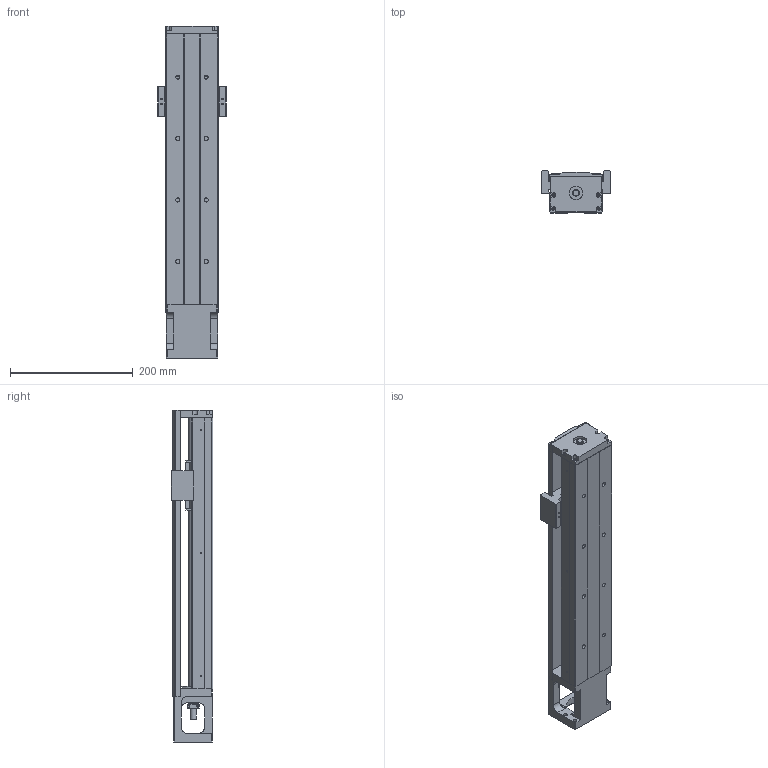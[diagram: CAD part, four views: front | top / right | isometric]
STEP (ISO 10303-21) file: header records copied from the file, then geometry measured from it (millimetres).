
FILE_DESCRIPTION(/* description */ (''),/* implementation_level */ '2;1');
FILE_NAME(/* name */ 'KP46S-440-C-D.stp',/* time_stamp */ '2020-06-05T10:19:10+08:00',/* author */ (''),/* organization */ (''),/* preprocessor_version */ 'ST-DEVELOPER v14',/* originating_system */ 'SIEMENS PLM Software NX 8.0',/* authorisation */ '');
FILE_SCHEMA (('AUTOMOTIVE_DESIGN { 1 0 10303 214 3 1 1 1 }'));
Length unit declared in the file: millimetre
Products named in the file (1): model1
Bounding box: 112 x 68 x 540 mm (x, y, z)
Volume: 1647260.5 mm3; surface area: 413145.9 mm2
Topology: 9 solids, 31 shells, 944 faces, 2483 edges, 1659 vertices
Faces by surface type: plane 504, cylinder 325, cone 58, bspline 41, torus 16
Full cylindrical faces by diameter (mm): 2 x4, 2.11 x4, 2.15 x6, 2.42 x12, 2.5 x4, 3 x8, 3.2 x4, 3.3 x14, 3.4 x8, 4 x8, 4.2 x4, 4.5 x12, 5 x14, 6 x12, 6.35 x4, 6.6 x7, 6.7 x4, 8.7 x8, 9.6 x1, 10 x5, 11 x8, 12 x1, 14.95 x4, 15 x1, 16 x4, 22 x5, 27.5 x1, 44 x1, 50 x1
Entity records: 40278 total; most frequent: CARTESIAN_POINT 14560, ORIENTED_EDGE 4304, DIRECTION 4274, EDGE_CURVE 2152, VERTEX_POINT 1557, AXIS2_PLACEMENT_3D 1551, EDGE_LOOP 1311, LINE 1172
